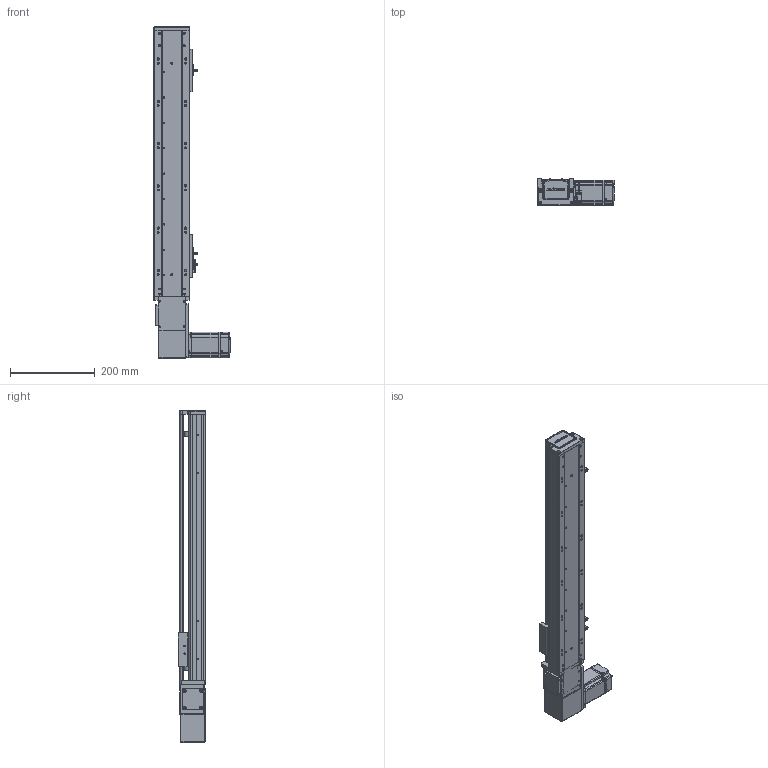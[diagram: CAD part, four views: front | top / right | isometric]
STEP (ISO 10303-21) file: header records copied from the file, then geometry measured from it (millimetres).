
FILE_DESCRIPTION (( 'STEP AP203' ), '1' );
FILE_NAME ('RY80-T-300-RK.SLDASM_450.step', '2021-03-01T02:06:31', ( '盈信电脑' ), ( '东莞市道滘镇水果街19号' ), 'SwSTEP 2.0', 'SolidWorks 2012', '' );
FILE_SCHEMA (( 'CONFIG_CONTROL_DESIGN' ));
Products named in the file (20): RY80-T-300-RK.SLDASM_450; RY80-T肮祭謫俋欶; RY80-T翋肮祭謫裔啣; RY100-T粣創揤踡裔; 滅袉蝶18-10; RY80-T粣創揤踡輸; RY80-T肮祭湍揤輸1; RY80-T肮祭湍揤輸2; RY80-T-M4蹟翐; 侂狟200W萇儂; RY80-T-翋肮祭謫釱; RY80-T萇儂假蚾啣; 1; 覜茼ん672; 672嫖萇羲壽假蚾釱; RY80俋离覜茼え; RY80-T-300-RK倰第奻裔啣_450; RY80-T-300-RK倰第菁釱_450; RY80-T肮祭謫臏賑輸; RY80-T綴裔啣
Assembly tree (25 placements, depth 3):
  RY80-T-300-RK.SLDASM_450
    RY80-T-300-RK倰第菁釱_450
    RY80-T肮祭謫臏賑輸
    RY80-T-300-RK倰第奻裔啣_450
    RY80-T綴裔啣
    672嫖萇羲壽假蚾釱  x2
    覜茼ん672  x3
    RY80俋离覜茼え
    侂狟200W萇儂
      1
    RY80-T-翋肮祭謫釱
    RY80-T萇儂假蚾啣
    RY80-T肮祭湍揤輸1
    RY80-T肮祭湍揤輸2
    RY80-T粣創揤踡輸
    RY80-T-M4蹟翐  x2
    RY80-T翋肮祭謫裔啣  x2
    RY80-T肮祭謫俋欶
    滅袉蝶18-10  x2
    RY100-T粣創揤踡裔
Bounding box: 180 x 65 x 785 mm (x, y, z)
Volume: 1479209.6 mm3; surface area: 595414.1 mm2
Topology: 24 solids, 24 shells, 2437 faces, 6698 edges, 4351 vertices
Faces by surface type: plane 1324, cylinder 909, cone 148, bspline 56
Entity records: 76112 total; most frequent: CARTESIAN_POINT 18163, ORIENTED_EDGE 11840, DIRECTION 11188, EDGE_CURVE 5920, VERTEX_POINT 3892, AXIS2_PLACEMENT_3D 3749, VECTOR 3690, LINE 3690
